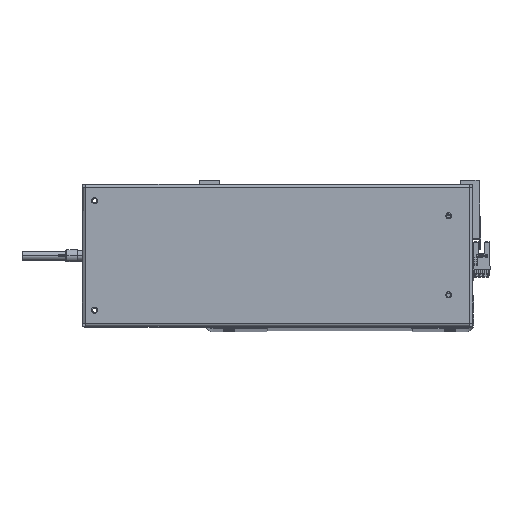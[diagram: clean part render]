
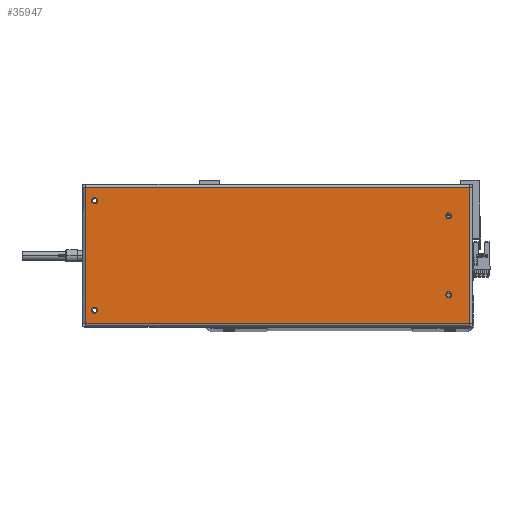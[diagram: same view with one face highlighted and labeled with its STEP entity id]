
A CAD part, top view. The second image highlights one B-rep face of the part: STEP entity #35947.
In plain terms, the highlighted planar face has unit normal (0, 0, 1).
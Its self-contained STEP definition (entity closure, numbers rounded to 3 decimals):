
#553 = CARTESIAN_POINT ( 'NONE',  ( 157.6, -55.6, 0. ) ) ;
#941 = AXIS2_PLACEMENT_3D ( 'NONE', #3430, #3552, #26126 ) ;
#1003 = FACE_BOUND ( 'NONE', #39439, .T. ) ;
#1084 = EDGE_CURVE ( 'NONE', #41666, #6880, #38736, .T. ) ;
#1123 = AXIS2_PLACEMENT_3D ( 'NONE', #24472, #11804, #27590 ) ;
#1577 = LINE ( 'NONE', #553, #2038 ) ;
#1820 = DIRECTION ( 'NONE',  ( 1., 0., 0. ) ) ;
#2038 = VECTOR ( 'NONE', #10575, 1000. ) ;
#2287 = ORIENTED_EDGE ( 'NONE', *, *, #37755, .F. ) ;
#2924 = EDGE_LOOP ( 'NONE', ( #19400, #30088, #35422, #10322 ) ) ;
#3028 = AXIS2_PLACEMENT_3D ( 'NONE', #29317, #41703, #19727 ) ;
#3285 = ORIENTED_EDGE ( 'NONE', *, *, #11084, .F. ) ;
#3376 = CARTESIAN_POINT ( 'NONE',  ( -157.6, 55.6, 0. ) ) ;
#3401 = CARTESIAN_POINT ( 'NONE',  ( -143., 32.5, 0. ) ) ;
#3430 = CARTESIAN_POINT ( 'NONE',  ( -140.5, 32.5, 0. ) ) ;
#3552 = DIRECTION ( 'NONE',  ( 0., 0., 1. ) ) ;
#4234 = CIRCLE ( 'NONE', #9113, 2.5 ) ;
#4414 = CARTESIAN_POINT ( 'NONE',  ( -157.7, -55.6, 0. ) ) ;
#4421 = DIRECTION ( 'NONE',  ( 0., 0., 1. ) ) ;
#4540 = CARTESIAN_POINT ( 'NONE',  ( 150.5, -45., 0. ) ) ;
#4614 = CARTESIAN_POINT ( 'NONE',  ( -140.5, 32.5, 0. ) ) ;
#4718 = VERTEX_POINT ( 'NONE', #3376 ) ;
#4930 = CARTESIAN_POINT ( 'NONE',  ( 150.5, 45., 0. ) ) ;
#6497 = DIRECTION ( 'NONE',  ( 1., 0., 0. ) ) ;
#6880 = VERTEX_POINT ( 'NONE', #8714 ) ;
#7703 = EDGE_CURVE ( 'NONE', #13554, #9137, #4234, .T. ) ;
#7887 = LINE ( 'NONE', #18407, #17460 ) ;
#8178 = EDGE_CURVE ( 'NONE', #29796, #39550, #30868, .T. ) ;
#8714 = CARTESIAN_POINT ( 'NONE',  ( 157.6, -55.6, 0. ) ) ;
#8946 = DIRECTION ( 'NONE',  ( -1., 0., 0. ) ) ;
#8993 = AXIS2_PLACEMENT_3D ( 'NONE', #4540, #39722, #17483 ) ;
#9045 = CIRCLE ( 'NONE', #8993, 2.5 ) ;
#9113 = AXIS2_PLACEMENT_3D ( 'NONE', #23691, #4421, #32970 ) ;
#9137 = VERTEX_POINT ( 'NONE', #27329 ) ;
#10259 = CARTESIAN_POINT ( 'NONE',  ( 153., 45., 0. ) ) ;
#10322 = ORIENTED_EDGE ( 'NONE', *, *, #13161, .T. ) ;
#10368 = ORIENTED_EDGE ( 'NONE', *, *, #8178, .F. ) ;
#10386 = CIRCLE ( 'NONE', #941, 2.5 ) ;
#10575 = DIRECTION ( 'NONE',  ( 0., 1., 0. ) ) ;
#11084 = EDGE_CURVE ( 'NONE', #35902, #24270, #16635, .T. ) ;
#11132 = CARTESIAN_POINT ( 'NONE',  ( -140.5, -32.5, 0. ) ) ;
#11258 = CARTESIAN_POINT ( 'NONE',  ( -138., 32.5, 0. ) ) ;
#11273 = DIRECTION ( 'NONE',  ( 0., 0., 1. ) ) ;
#11804 = DIRECTION ( 'NONE',  ( 0., 0., -1. ) ) ;
#13056 = FACE_BOUND ( 'NONE', #41590, .T. ) ;
#13161 = EDGE_CURVE ( 'NONE', #33634, #4718, #7887, .T. ) ;
#13554 = VERTEX_POINT ( 'NONE', #41096 ) ;
#14058 = DIRECTION ( 'NONE',  ( 0., -1., 0. ) ) ;
#14464 = CIRCLE ( 'NONE', #19239, 2.5 ) ;
#15119 = ORIENTED_EDGE ( 'NONE', *, *, #30362, .F. ) ;
#15848 = VERTEX_POINT ( 'NONE', #33317 ) ;
#16318 = CARTESIAN_POINT ( 'NONE',  ( -157.6, -55.6, 0. ) ) ;
#16470 = EDGE_LOOP ( 'NONE', ( #3285, #15119 ) ) ;
#16635 = CIRCLE ( 'NONE', #27359, 2.5 ) ;
#16839 = VERTEX_POINT ( 'NONE', #17882 ) ;
#17024 = CARTESIAN_POINT ( 'NONE',  ( 150.5, 45., 0. ) ) ;
#17460 = VECTOR ( 'NONE', #8946, 1000. ) ;
#17483 = DIRECTION ( 'NONE',  ( 1., 0., 0. ) ) ;
#17730 = DIRECTION ( 'NONE',  ( 0., 0., 1. ) ) ;
#17882 = CARTESIAN_POINT ( 'NONE',  ( -143., -32.5, 0. ) ) ;
#18407 = CARTESIAN_POINT ( 'NONE',  ( 157.7, 55.6, 0. ) ) ;
#18494 = LINE ( 'NONE', #33190, #35596 ) ;
#18559 = PLANE ( 'NONE',  #1123 ) ;
#19239 = AXIS2_PLACEMENT_3D ( 'NONE', #11132, #11273, #23788 ) ;
#19400 = ORIENTED_EDGE ( 'NONE', *, *, #31736, .T. ) ;
#19600 = VECTOR ( 'NONE', #6497, 1000. ) ;
#19727 = DIRECTION ( 'NONE',  ( 1., 0., 0. ) ) ;
#19823 = ORIENTED_EDGE ( 'NONE', *, *, #28250, .F. ) ;
#21503 = EDGE_LOOP ( 'NONE', ( #19823, #2287 ) ) ;
#22334 = CARTESIAN_POINT ( 'NONE',  ( 157.6, 55.6, 0. ) ) ;
#23691 = CARTESIAN_POINT ( 'NONE',  ( 150.5, -45., 0. ) ) ;
#23758 = DIRECTION ( 'NONE',  ( 0., 0., 1. ) ) ;
#23788 = DIRECTION ( 'NONE',  ( 1., 0., 0. ) ) ;
#24270 = VERTEX_POINT ( 'NONE', #38251 ) ;
#24472 = CARTESIAN_POINT ( 'NONE',  ( 157.7, 58.5, 0. ) ) ;
#26126 = DIRECTION ( 'NONE',  ( 1., 0., 0. ) ) ;
#26997 = AXIS2_PLACEMENT_3D ( 'NONE', #4614, #30370, #27158 ) ;
#27158 = DIRECTION ( 'NONE',  ( 1., 0., 0. ) ) ;
#27329 = CARTESIAN_POINT ( 'NONE',  ( 153., -45., 0. ) ) ;
#27359 = AXIS2_PLACEMENT_3D ( 'NONE', #4930, #17730, #1820 ) ;
#27590 = DIRECTION ( 'NONE',  ( -1., 0., 0. ) ) ;
#28250 = EDGE_CURVE ( 'NONE', #15848, #16839, #29312, .T. ) ;
#28493 = ORIENTED_EDGE ( 'NONE', *, *, #29891, .F. ) ;
#29312 = CIRCLE ( 'NONE', #3028, 2.5 ) ;
#29317 = CARTESIAN_POINT ( 'NONE',  ( -140.5, -32.5, 0. ) ) ;
#29624 = ORIENTED_EDGE ( 'NONE', *, *, #7703, .F. ) ;
#29796 = VERTEX_POINT ( 'NONE', #3401 ) ;
#29891 = EDGE_CURVE ( 'NONE', #9137, #13554, #9045, .T. ) ;
#29977 = DIRECTION ( 'NONE',  ( 1., 0., 0. ) ) ;
#30088 = ORIENTED_EDGE ( 'NONE', *, *, #1084, .T. ) ;
#30362 = EDGE_CURVE ( 'NONE', #24270, #35902, #32200, .T. ) ;
#30370 = DIRECTION ( 'NONE',  ( 0., 0., 1. ) ) ;
#30566 = ORIENTED_EDGE ( 'NONE', *, *, #38552, .F. ) ;
#30868 = CIRCLE ( 'NONE', #26997, 2.5 ) ;
#31692 = AXIS2_PLACEMENT_3D ( 'NONE', #17024, #23758, #29977 ) ;
#31736 = EDGE_CURVE ( 'NONE', #4718, #41666, #18494, .T. ) ;
#32200 = CIRCLE ( 'NONE', #31692, 2.5 ) ;
#32691 = FACE_BOUND ( 'NONE', #16470, .T. ) ;
#32970 = DIRECTION ( 'NONE',  ( 1., 0., 0. ) ) ;
#33143 = EDGE_CURVE ( 'NONE', #6880, #33634, #1577, .T. ) ;
#33190 = CARTESIAN_POINT ( 'NONE',  ( -157.6, 55.6, 0. ) ) ;
#33317 = CARTESIAN_POINT ( 'NONE',  ( -138., -32.5, 0. ) ) ;
#33634 = VERTEX_POINT ( 'NONE', #22334 ) ;
#35422 = ORIENTED_EDGE ( 'NONE', *, *, #33143, .T. ) ;
#35596 = VECTOR ( 'NONE', #14058, 1000. ) ;
#35902 = VERTEX_POINT ( 'NONE', #10259 ) ;
#35947 = ADVANCED_FACE ( 'NONE', ( #40791, #13056, #1003, #32691, #36251 ), #18559, .F. ) ;
#36251 = FACE_OUTER_BOUND ( 'NONE', #2924, .T. ) ;
#37755 = EDGE_CURVE ( 'NONE', #16839, #15848, #14464, .T. ) ;
#38251 = CARTESIAN_POINT ( 'NONE',  ( 148., 45., 0. ) ) ;
#38552 = EDGE_CURVE ( 'NONE', #39550, #29796, #10386, .T. ) ;
#38736 = LINE ( 'NONE', #4414, #19600 ) ;
#39439 = EDGE_LOOP ( 'NONE', ( #28493, #29624 ) ) ;
#39550 = VERTEX_POINT ( 'NONE', #11258 ) ;
#39722 = DIRECTION ( 'NONE',  ( 0., 0., 1. ) ) ;
#40791 = FACE_BOUND ( 'NONE', #21503, .T. ) ;
#41096 = CARTESIAN_POINT ( 'NONE',  ( 148., -45., 0. ) ) ;
#41590 = EDGE_LOOP ( 'NONE', ( #30566, #10368 ) ) ;
#41666 = VERTEX_POINT ( 'NONE', #16318 ) ;
#41703 = DIRECTION ( 'NONE',  ( 0., 0., 1. ) ) ;
